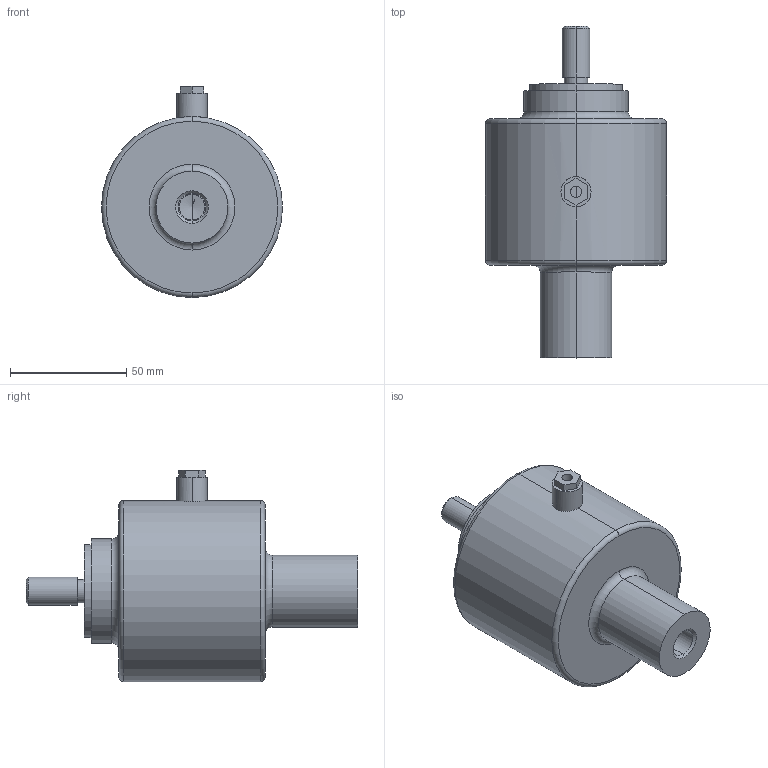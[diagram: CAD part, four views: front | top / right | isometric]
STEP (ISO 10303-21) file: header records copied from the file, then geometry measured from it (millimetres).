
FILE_DESCRIPTION((''),'1');
FILE_NAME('LFLB_M12_75-150-300-500-1000-2000_kg.step','2024-05-28T14:27:08',(''),(''),'','','');
FILE_SCHEMA(('AUTOMOTIVE_DESIGN { 1 0 10303 214 1 1 1 1 }'));
Products named in the file (1): LFLB M12_75-150-300-500-1000-2000_kg
Bounding box: 78 x 143 x 91 mm (x, y, z)
Volume: 354637.4 mm3; surface area: 33101.2 mm2
Topology: 1 solids, 1 shells, 52 faces, 112 edges, 69 vertices
Faces by surface type: cylinder 22, plane 16, torus 8, cone 6
Entity records: 1560 total; most frequent: CARTESIAN_POINT 376, DIRECTION 264, ORIENTED_EDGE 220, EDGE_CURVE 110, AXIS2_PLACEMENT_3D 109, VERTEX_POINT 69, EDGE_LOOP 61, CIRCLE 56
